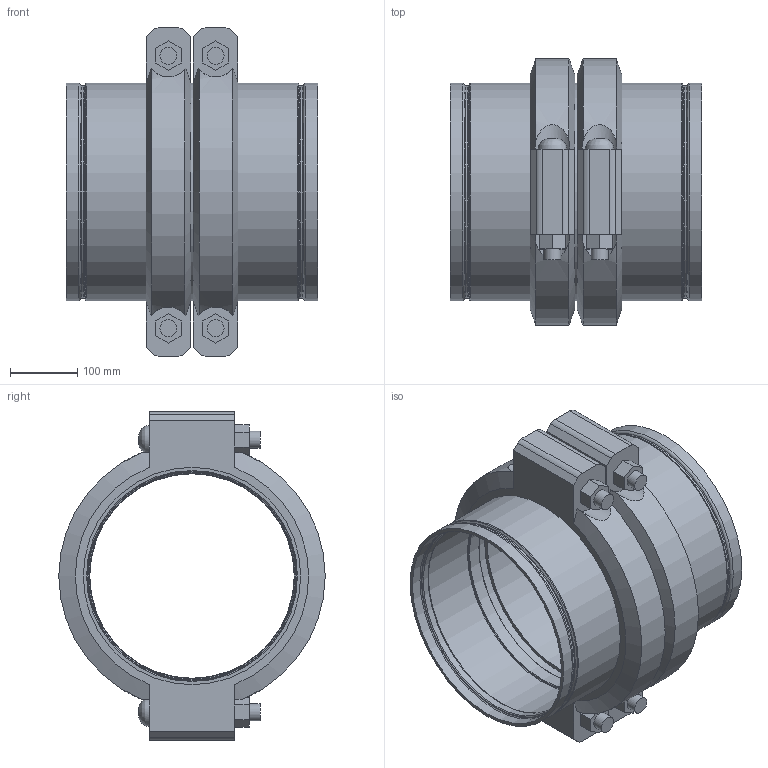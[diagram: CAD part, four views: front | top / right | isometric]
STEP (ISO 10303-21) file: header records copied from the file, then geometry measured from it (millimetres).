
FILE_DESCRIPTION(/* description */ ('VIC STRENGTHIN 100 EXPANSION JOINT 2 COUPLINGS COMPRESSED STYLE E155 (ST1)','CAx-IF Rec.Pracs.---Representation and Presentation of Product Manufacturing Information (PMI)---4.0---2014-10-13'),/* implementation_level */ '2;1');
FILE_NAME(/* name */ 'C:\Users\Vjadhav\AppData\Roaming\Autodesk\ApplicationPlugins\Victaulic.Temp\A523\Victaulic_SS-StrengThin 100_Expansion Joint_Compressed_2 Couplings_Style E155 (ST1)_12 (300).stp',/* time_stamp */ '2021-07-23T12:29:31+06:00',/* author */ ('kkamble'),/* organization */ ('Victaulic'),/* preprocessor_version */ 'ST-DEVELOPER v17.2',/* originating_system */ 'Autodesk Inventor 2019',/* authorisation */ '');
FILE_SCHEMA (('AP242_MANAGED_MODEL_BASED_3D_ENGINEERING_MIM_LF { 1 0 10303 442 1 1 4 }'));
Length unit declared in the file: inch
Products named in the file (4): E155-12.0; E494G-12.0; Nipple-12.0; 077-12.0
Assembly tree (5 placements, depth 2):
  E155-12.0
    E494G-12.0  x2
    Nipple-12.0
    077-12.0  x2
Bounding box: 375.41 x 397 x 488.95 mm (x, y, z)
Volume: 8942859.5 mm3; surface area: 1450696 mm2
Topology: 5 solids, 9 shells, 196 faces, 538 edges, 386 vertices
Faces by surface type: plane 88, cylinder 60, torus 32, cone 12, bspline 4
Full cylindrical faces by diameter (mm): 25.4 x8, 27.432 x4, 304.8 x1, 306.426 x2, 308.737 x2, 314.3 x6, 315.976 x2, 318.287 x4, 323.85 x11
Entity records: 3906 total; most frequent: CARTESIAN_POINT 810, DIRECTION 657, ORIENTED_EDGE 568, EDGE_CURVE 284, AXIS2_PLACEMENT_3D 282, VERTEX_POINT 205, CIRCLE 171, EDGE_LOOP 129
